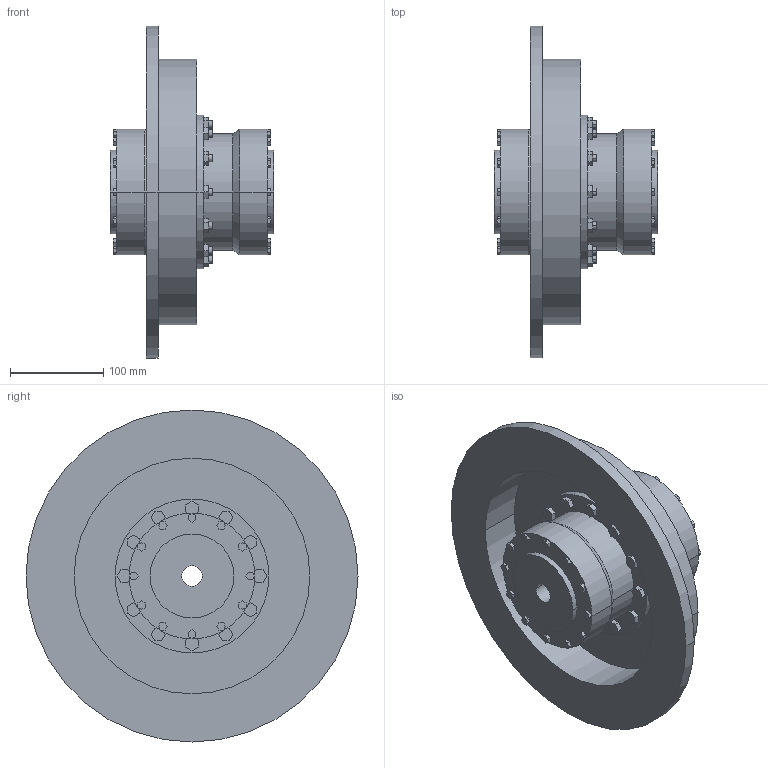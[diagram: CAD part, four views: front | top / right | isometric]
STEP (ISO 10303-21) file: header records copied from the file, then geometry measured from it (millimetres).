
FILE_DESCRIPTION((''),'2;1');
FILE_NAME('A19100800-0_ASM','2018-11-08T',('AB_Roschiwal'),('RENK AG'),'PRO/ENGINEER BY PARAMETRIC TECHNOLOGY CORPORATION, 2015440','PRO/ENGINEER BY PARAMETRIC TECHNOLOGY CORPORATION, 2015440','');
FILE_SCHEMA(('CONFIG_CONTROL_DESIGN'));
Length unit declared in the file: millimetre
Products named in the file (4): SBKD60_GEHAEUSE; SBKD60_NABE; SBKD60_BREMSSCHEIBE; A19100800-0_ASM
Assembly tree (4 placements, depth 2):
  A19100800-0_ASM
    SBKD60_GEHAEUSE
    SBKD60_NABE  x2
    SBKD60_BREMSSCHEIBE
Bounding box: 175 x 356 x 356 mm (x, y, z)
Volume: 3459892.7 mm3; surface area: 559556.1 mm2
Topology: 4 solids, 4 shells, 470 faces, 1156 edges, 768 vertices
Faces by surface type: plane 370, cylinder 96, cone 4
Entity records: 13604 total; most frequent: CARTESIAN_POINT 2350, ORIENTED_EDGE 2264, DIRECTION 2240, EDGE_CURVE 1132, VECTOR 956, LINE 956, VERTEX_POINT 752, AXIS2_PLACEMENT_3D 642
